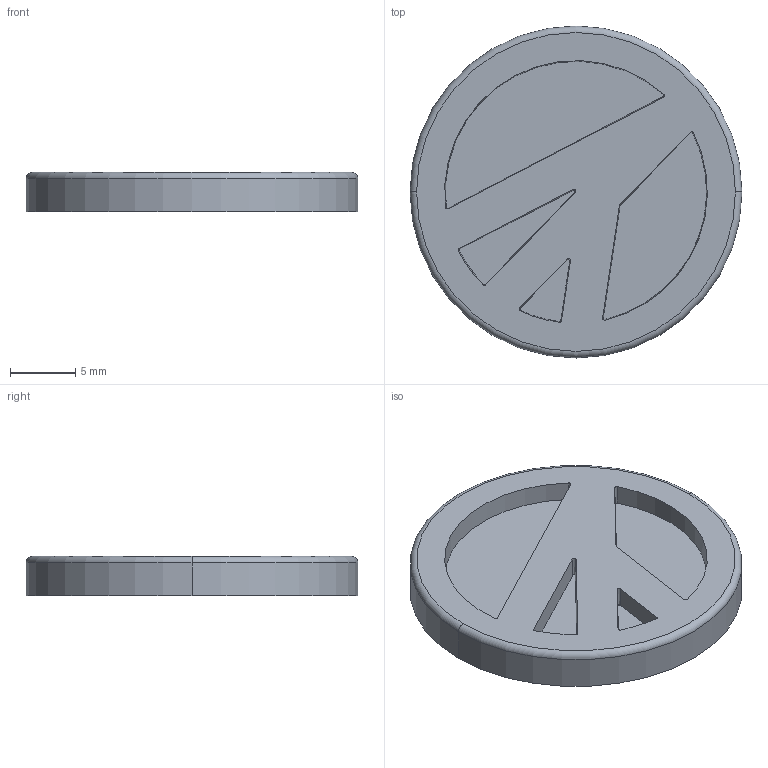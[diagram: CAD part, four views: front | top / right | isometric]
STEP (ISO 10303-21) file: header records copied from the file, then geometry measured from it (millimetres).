
FILE_DESCRIPTION((''),'2;1');
FILE_NAME('RANK5','2015-05-15T',('Daniel'),(''),'PRO/ENGINEER BY PARAMETRIC TECHNOLOGY CORPORATION, 2014000','PRO/ENGINEER BY PARAMETRIC TECHNOLOGY CORPORATION, 2014000','');
FILE_SCHEMA(('CONFIG_CONTROL_DESIGN'));
Length unit declared in the file: millimetre
Products named in the file (1): RANK5
Bounding box: 25.4 x 25.4 x 3 mm (x, y, z)
Volume: 1240.1 mm3; surface area: 1403 mm2
Topology: 1 solids, 1 shells, 32 faces, 76 edges, 50 vertices
Faces by surface type: cone 15, plane 13, torus 2, cylinder 2
Entity records: 980 total; most frequent: DIRECTION 178, CARTESIAN_POINT 158, ORIENTED_EDGE 152, EDGE_CURVE 76, AXIS2_PLACEMENT_3D 70, VERTEX_POINT 50, VECTOR 38, LINE 38
